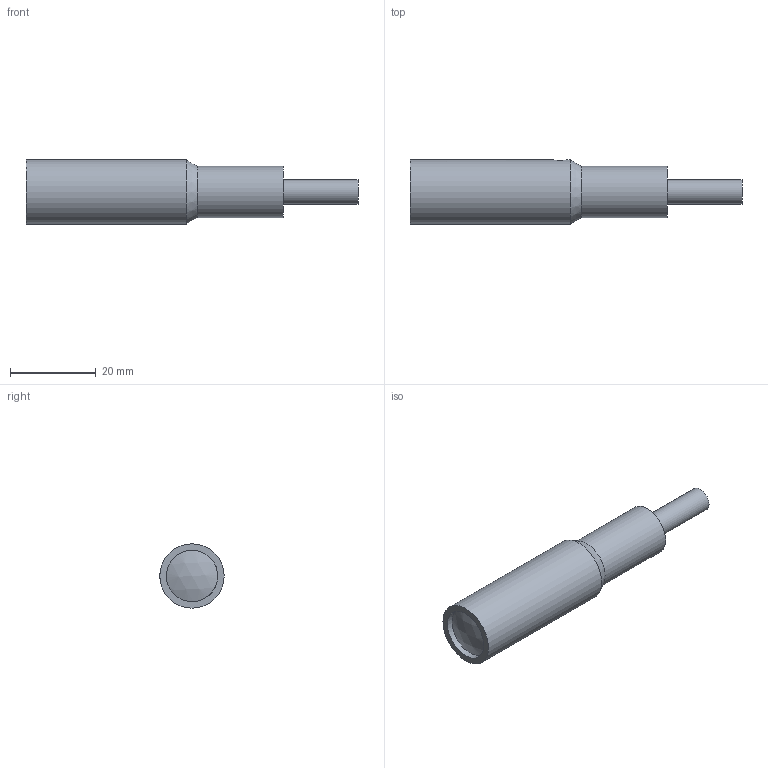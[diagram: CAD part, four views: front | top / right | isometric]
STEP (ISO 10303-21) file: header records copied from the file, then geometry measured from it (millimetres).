
FILE_DESCRIPTION((''),'2;1');
FILE_NAME('Q:\Konstruktion\E-Mail-Zeichnungen\STEP\KL-3.stp','2007-01-31T14:06:06',('GuentherB'),(''),'Autodesk Inventor 11','Autodesk Inventor 11','');
FILE_SCHEMA(('AUTOMOTIVE_DESIGN { 1 0 10303 214 1 1 1 1 }'));
Length unit declared in the file: millimetre
Products named in the file (1): Bauteil1
Bounding box: 77.5 x 15 x 15 mm (x, y, z)
Volume: 9583.8 mm3; surface area: 3323.8 mm2
Topology: 1 solids, 1 shells, 19 faces, 40 edges, 26 vertices
Faces by surface type: plane 10, cylinder 4, bspline 2, cone 2, sphere 1
Full cylindrical faces by diameter (mm): 5.7 x1, 12 x1, 15 x1
Entity records: 555 total; most frequent: CARTESIAN_POINT 162, DIRECTION 80, ORIENTED_EDGE 60, AXIS2_PLACEMENT_3D 34, EDGE_CURVE 30, EDGE_LOOP 30, VERTEX_POINT 24, FACE_OUTER_BOUND 19
